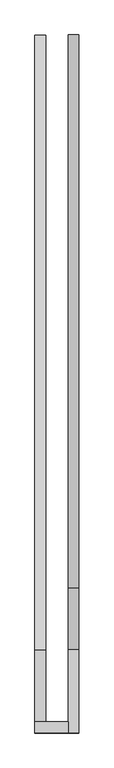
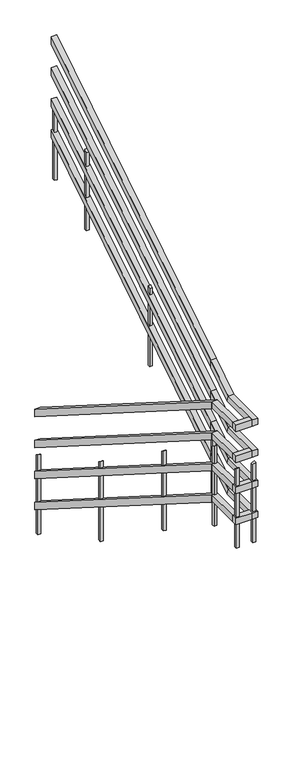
"""IFC4 building model written with IfcOpenShell, lengths in millimetres: railing geometry, RL780-금속재 난간."""

from ifc_helpers import new_model, si_unit, frame, origin, place, context, project, spatial, polyline, outline, extrude, faceted_brep, source, transform, mapped, element, save


def railing_8a41344b(model_context):
    return source(origin(), model_context, "Body", "SolidModel", [
        faceted_brep([(1249.8430136, 5200.0, 8877.2727273), (1299.8430136, 5200.0, 8877.2727273), (1299.8430136, 5200.0, 8806.2585515), (1249.8430136, 5200.0, 8806.2585515), (1249.8430136, 2400.0, 10650.0), (1249.8430136, 2400.0, 10578.9858243), (1299.8430136, 2400.0, 10578.9858243), (1299.8430136, 2400.0, 10650.0)], [[[0, 1, 2, 3]], [[4, 5, 6, 7]], [[1, 0, 4, 7]], [[2, 1, 7, 6]], [[3, 2, 6, 5]], [[0, 3, 5, 4]]]),
        faceted_brep([(1249.8430136, 5200.0, 8577.2727273), (1299.8430136, 5200.0, 8577.2727273), (1299.8430136, 5200.0, 8506.2585515), (1249.8430136, 5200.0, 8506.2585515), (1249.8430136, 2400.0, 10350.0), (1249.8430136, 2400.0, 10278.9858243), (1299.8430136, 2400.0, 10278.9858243), (1299.8430136, 2400.0, 10350.0)], [[[0, 1, 2, 3]], [[4, 5, 6, 7]], [[1, 0, 4, 7]], [[2, 1, 7, 6]], [[3, 2, 6, 5]], [[0, 3, 5, 4]]]),
        faceted_brep([(1249.8430136, 5200.0, 8277.2727273), (1299.8430136, 5200.0, 8277.2727273), (1299.8430136, 5200.0, 8206.2585515), (1249.8430136, 5200.0, 8206.2585515), (1249.8430136, 2400.0, 10050.0), (1249.8430136, 2400.0, 9978.9858243), (1299.8430136, 2400.0, 9978.9858243), (1299.8430136, 2400.0, 10050.0)], [[[0, 1, 2, 3]], [[4, 5, 6, 7]], [[1, 0, 4, 7]], [[2, 1, 7, 6]], [[3, 2, 6, 5]], [[0, 3, 5, 4]]]),
        faceted_brep([(1249.8430136, 5200.0, 7977.2727273), (1299.8430136, 5200.0, 7977.2727273), (1299.8430136, 5200.0, 7906.2585515), (1249.8430136, 5200.0, 7906.2585515), (1249.8430136, 2400.0, 9750.0), (1249.8430136, 2400.0, 9678.9858243), (1299.8430136, 2400.0, 9678.9858243), (1299.8430136, 2400.0, 9750.0)], [[[0, 1, 2, 3]], [[4, 5, 6, 7]], [[1, 0, 4, 7]], [[2, 1, 7, 6]], [[3, 2, 6, 5]], [[0, 3, 5, 4]]]),
        faceted_brep([(1249.8430136, 2021.0869752, 10650.0), (1249.8430136, 2071.0869752, 10650.0), (1249.8430136, 2071.0869752, 10590.0), (1249.8430136, 2021.0869752, 10590.0), (1400.6430136, 2021.0869752, 10650.0), (1400.6430136, 2021.0869752, 10590.0), (1400.6430136, 2071.0869752, 10590.0), (1400.6430136, 2071.0869752, 10650.0)], [[[0, 1, 2, 3]], [[4, 5, 6, 7]], [[1, 0, 4, 7]], [[2, 1, 7, 6]], [[3, 2, 6, 5]], [[0, 3, 5, 4]]]),
        faceted_brep([(1450.6430136, 2021.0869752, 10650.0), (1400.6430136, 2021.0869752, 10650.0), (1400.6430136, 2021.0869752, 10590.0), (1450.6430136, 2021.0869752, 10590.0), (1450.6430136, 2400.0, 10650.0), (1400.6430136, 2400.0, 10650.0), (1400.6430136, 2417.3967494, 10590.0), (1450.6430136, 2680.0, 10827.2727273), (1450.6430136, 2680.0, 10756.2585515), (1400.6430136, 2680.0, 10756.2585515), (1400.6430136, 2680.0, 10827.2727273), (1450.6430136, 2417.3967494, 10590.0)], [[[0, 1, 2, 3]], [[1, 0, 4, 5]], [[2, 1, 5, 6]], [[7, 8, 9, 10]], [[5, 4, 7, 10]], [[6, 5, 10, 9]], [[3, 2, 6, 11]], [[0, 3, 11, 4]], [[11, 6, 9, 8]], [[4, 11, 8, 7]]]),
        faceted_brep([(1450.6430136, 2680.0, 10827.2727273), (1400.6430136, 2680.0, 10827.2727273), (1400.6430136, 2680.0, 10756.2585515), (1450.6430136, 2680.0, 10756.2585515), (1450.6430136, 5200.0, 12422.7272727), (1450.6430136, 5200.0, 12351.713097), (1400.6430136, 5200.0, 12351.713097), (1400.6430136, 5200.0, 12422.7272727)], [[[0, 1, 2, 3]], [[4, 5, 6, 7]], [[1, 0, 4, 7]], [[2, 1, 7, 6]], [[3, 2, 6, 5]], [[0, 3, 5, 4]]]),
        faceted_brep([(1249.8430136, 2021.0869752, 10350.0), (1249.8430136, 2071.0869752, 10350.0), (1249.8430136, 2071.0869752, 10290.0), (1249.8430136, 2021.0869752, 10290.0), (1400.6430136, 2021.0869752, 10350.0), (1400.6430136, 2021.0869752, 10290.0), (1400.6430136, 2071.0869752, 10290.0), (1400.6430136, 2071.0869752, 10350.0)], [[[0, 1, 2, 3]], [[4, 5, 6, 7]], [[1, 0, 4, 7]], [[2, 1, 7, 6]], [[3, 2, 6, 5]], [[0, 3, 5, 4]]]),
        faceted_brep([(1450.6430136, 2021.0869752, 10350.0), (1400.6430136, 2021.0869752, 10350.0), (1400.6430136, 2021.0869752, 10290.0), (1450.6430136, 2021.0869752, 10290.0), (1450.6430136, 2400.0, 10350.0), (1400.6430136, 2400.0, 10350.0), (1400.6430136, 2417.3967494, 10290.0), (1450.6430136, 2680.0, 10527.2727273), (1450.6430136, 2680.0, 10456.2585515), (1400.6430136, 2680.0, 10456.2585515), (1400.6430136, 2680.0, 10527.2727273), (1450.6430136, 2417.3967494, 10290.0)], [[[0, 1, 2, 3]], [[1, 0, 4, 5]], [[2, 1, 5, 6]], [[7, 8, 9, 10]], [[5, 4, 7, 10]], [[6, 5, 10, 9]], [[3, 2, 6, 11]], [[0, 3, 11, 4]], [[11, 6, 9, 8]], [[4, 11, 8, 7]]]),
        faceted_brep([(1450.6430136, 2680.0, 10527.2727273), (1400.6430136, 2680.0, 10527.2727273), (1400.6430136, 2680.0, 10456.2585515), (1450.6430136, 2680.0, 10456.2585515), (1450.6430136, 5200.0, 12122.7272727), (1450.6430136, 5200.0, 12051.713097), (1400.6430136, 5200.0, 12051.713097), (1400.6430136, 5200.0, 12122.7272727)], [[[0, 1, 2, 3]], [[4, 5, 6, 7]], [[1, 0, 4, 7]], [[2, 1, 7, 6]], [[3, 2, 6, 5]], [[0, 3, 5, 4]]]),
        faceted_brep([(1249.8430136, 2021.0869752, 10050.0), (1249.8430136, 2071.0869752, 10050.0), (1249.8430136, 2071.0869752, 9990.0), (1249.8430136, 2021.0869752, 9990.0), (1400.6430136, 2021.0869752, 10050.0), (1400.6430136, 2021.0869752, 9990.0), (1400.6430136, 2071.0869752, 9990.0), (1400.6430136, 2071.0869752, 10050.0)], [[[0, 1, 2, 3]], [[4, 5, 6, 7]], [[1, 0, 4, 7]], [[2, 1, 7, 6]], [[3, 2, 6, 5]], [[0, 3, 5, 4]]]),
        faceted_brep([(1450.6430136, 2021.0869752, 10050.0), (1400.6430136, 2021.0869752, 10050.0), (1400.6430136, 2021.0869752, 9990.0), (1450.6430136, 2021.0869752, 9990.0), (1450.6430136, 2400.0, 10050.0), (1400.6430136, 2400.0, 10050.0), (1400.6430136, 2417.3967494, 9990.0), (1450.6430136, 2680.0, 10227.2727273), (1450.6430136, 2680.0, 10156.2585515), (1400.6430136, 2680.0, 10156.2585515), (1400.6430136, 2680.0, 10227.2727273), (1450.6430136, 2417.3967494, 9990.0)], [[[0, 1, 2, 3]], [[1, 0, 4, 5]], [[2, 1, 5, 6]], [[7, 8, 9, 10]], [[5, 4, 7, 10]], [[6, 5, 10, 9]], [[3, 2, 6, 11]], [[0, 3, 11, 4]], [[11, 6, 9, 8]], [[4, 11, 8, 7]]]),
        faceted_brep([(1450.6430136, 2680.0, 10227.2727273), (1400.6430136, 2680.0, 10227.2727273), (1400.6430136, 2680.0, 10156.2585515), (1450.6430136, 2680.0, 10156.2585515), (1450.6430136, 5200.0, 11822.7272727), (1450.6430136, 5200.0, 11751.713097), (1400.6430136, 5200.0, 11751.713097), (1400.6430136, 5200.0, 11822.7272727)], [[[0, 1, 2, 3]], [[4, 5, 6, 7]], [[1, 0, 4, 7]], [[2, 1, 7, 6]], [[3, 2, 6, 5]], [[0, 3, 5, 4]]]),
        faceted_brep([(1249.8430136, 2021.0869752, 9750.0), (1249.8430136, 2071.0869752, 9750.0), (1249.8430136, 2071.0869752, 9690.0), (1249.8430136, 2021.0869752, 9690.0), (1400.6430136, 2021.0869752, 9750.0), (1400.6430136, 2021.0869752, 9690.0), (1400.6430136, 2071.0869752, 9690.0), (1400.6430136, 2071.0869752, 9750.0)], [[[0, 1, 2, 3]], [[4, 5, 6, 7]], [[1, 0, 4, 7]], [[2, 1, 7, 6]], [[3, 2, 6, 5]], [[0, 3, 5, 4]]]),
        faceted_brep([(1450.6430136, 2021.0869752, 9750.0), (1400.6430136, 2021.0869752, 9750.0), (1400.6430136, 2021.0869752, 9690.0), (1450.6430136, 2021.0869752, 9690.0), (1450.6430136, 2400.0, 9750.0), (1400.6430136, 2400.0, 9750.0), (1400.6430136, 2417.3967494, 9690.0), (1450.6430136, 2680.0, 9927.2727273), (1450.6430136, 2680.0, 9856.2585515), (1400.6430136, 2680.0, 9856.2585515), (1400.6430136, 2680.0, 9927.2727273), (1450.6430136, 2417.3967494, 9690.0)], [[[0, 1, 2, 3]], [[1, 0, 4, 5]], [[2, 1, 5, 6]], [[7, 8, 9, 10]], [[5, 4, 7, 10]], [[6, 5, 10, 9]], [[3, 2, 6, 11]], [[0, 3, 11, 4]], [[11, 6, 9, 8]], [[4, 11, 8, 7]]]),
        faceted_brep([(1450.6430136, 2680.0, 9927.2727273), (1400.6430136, 2680.0, 9927.2727273), (1400.6430136, 2680.0, 9856.2585515), (1450.6430136, 2680.0, 9856.2585515), (1450.6430136, 5200.0, 11522.7272727), (1450.6430136, 5200.0, 11451.713097), (1400.6430136, 5200.0, 11451.713097), (1400.6430136, 5200.0, 11522.7272727)], [[[0, 1, 2, 3]], [[4, 5, 6, 7]], [[1, 0, 4, 7]], [[2, 1, 7, 6]], [[3, 2, 6, 5]], [[0, 3, 5, 4]]]),
        faceted_brep([(1249.8430136, 2400.0, 10650.0), (1299.8430136, 2400.0, 10650.0), (1299.8430136, 2400.0, 10590.0), (1249.8430136, 2400.0, 10590.0), (1249.8430136, 2071.0869752, 10650.0), (1249.8430136, 2071.0869752, 10590.0), (1299.8430136, 2071.0869752, 10590.0), (1299.8430136, 2071.0869752, 10650.0)], [[[0, 1, 2, 3]], [[4, 5, 6, 7]], [[1, 0, 4, 7]], [[2, 1, 7, 6]], [[3, 2, 6, 5]], [[0, 3, 5, 4]]]),
        faceted_brep([(1249.8430136, 2400.0, 10350.0), (1299.8430136, 2400.0, 10350.0), (1299.8430136, 2400.0, 10290.0), (1249.8430136, 2400.0, 10290.0), (1249.8430136, 2071.0869752, 10350.0), (1249.8430136, 2071.0869752, 10290.0), (1299.8430136, 2071.0869752, 10290.0), (1299.8430136, 2071.0869752, 10350.0)], [[[0, 1, 2, 3]], [[4, 5, 6, 7]], [[1, 0, 4, 7]], [[2, 1, 7, 6]], [[3, 2, 6, 5]], [[0, 3, 5, 4]]]),
        faceted_brep([(1249.8430136, 2400.0, 10050.0), (1299.8430136, 2400.0, 10050.0), (1299.8430136, 2400.0, 9990.0), (1249.8430136, 2400.0, 9990.0), (1249.8430136, 2071.0869752, 10050.0), (1249.8430136, 2071.0869752, 9990.0), (1299.8430136, 2071.0869752, 9990.0), (1299.8430136, 2071.0869752, 10050.0)], [[[0, 1, 2, 3]], [[4, 5, 6, 7]], [[1, 0, 4, 7]], [[2, 1, 7, 6]], [[3, 2, 6, 5]], [[0, 3, 5, 4]]]),
        faceted_brep([(1249.8430136, 2400.0, 9750.0), (1299.8430136, 2400.0, 9750.0), (1299.8430136, 2400.0, 9690.0), (1249.8430136, 2400.0, 9690.0), (1249.8430136, 2071.0869752, 9750.0), (1249.8430136, 2071.0869752, 9690.0), (1299.8430136, 2071.0869752, 9690.0), (1299.8430136, 2071.0869752, 9750.0)], [[[0, 1, 2, 3]], [[4, 5, 6, 7]], [[1, 0, 4, 7]], [[2, 1, 7, 6]], [[3, 2, 6, 5]], [[0, 3, 5, 4]]]),
        extrude(outline(polyline([(4692.5, 11638.1359982), (4692.5, 10868.1818182), (4667.5, 10868.1818182), (4667.5, 11622.2276382), (4692.5, 11638.1359982)])), frame((1413.1430136, 0.0, 0.0), z_axis=(1.0, 0.0, 0.0), x_axis=(0.0, 1.0, 0.0)), (0.0, 0.0, 1.0), 25.0),
        extrude(outline(polyline([(3692.5, 10929.0450891), (3692.5, 10159.0909091), (3667.5, 10159.0909091), (3667.5, 10913.1367291), (3692.5, 10929.0450891)])), frame((1413.1430136, 0.0, 0.0), z_axis=(1.0, 0.0, 0.0), x_axis=(0.0, 1.0, 0.0)), (0.0, 0.0, 1.0), 25.0),
        extrude(outline(polyline([(3212.5, 9672.2276382), (3212.5, 8918.1818182), (3187.5, 8918.1818182), (3187.5, 9688.1359982), (3212.5, 9672.2276382)])), frame((1262.3430136, 0.0, 0.0), z_axis=(1.0, 0.0, 0.0), x_axis=(0.0, 1.0, 0.0)), (0.0, 0.0, 1.0), 25.0),
        extrude(outline(polyline([(4212.5, 8963.1367291), (4212.5, 8209.0909091), (4187.5, 8209.0909091), (4187.5, 8979.0450891), (4212.5, 8963.1367291)])), frame((1262.3430136, 0.0, 0.0), z_axis=(1.0, 0.0, 0.0), x_axis=(0.0, 1.0, 0.0)), (0.0, 0.0, 1.0), 25.0),
        extrude(outline(polyline([(2692.5, 10219.95418), (2692.5, 9450.0), (2667.5, 9450.0), (2667.5, 10204.04582), (2692.5, 10219.95418)])), frame((1413.1430136, 0.0, 0.0), z_axis=(1.0, 0.0, 0.0), x_axis=(0.0, 1.0, 0.0)), (0.0, 0.0, 1.0), 25.0),
        extrude(outline(polyline([(10204.04582, 1413.1430136), (9450.0, 1413.1430136), (9450.0, 1438.1430136), (10219.95418, 1438.1430136), (10204.04582, 1413.1430136)])), frame((0.0, 2033.5869752, 0.0), z_axis=(0.0, 1.0, 0.0), x_axis=(0.0, 0.0, 1.0)), (0.0, 0.0, 1.0), 25.0),
        extrude(outline(polyline([(2058.5869752, 10204.04582), (2058.5869752, 9450.0), (2033.5869752, 9450.0), (2033.5869752, 10219.95418), (2058.5869752, 10204.04582)])), frame((1262.3430136, 0.0, 0.0), z_axis=(1.0, 0.0, 0.0), x_axis=(0.0, 1.0, 0.0)), (0.0, 0.0, 1.0), 25.0),
        extrude(outline(polyline([(2412.5, 10204.04582), (2412.5, 9450.0), (2387.5, 9450.0), (2387.5, 10219.95418), (2412.5, 10204.04582)])), frame((1262.3430136, 0.0, 0.0), z_axis=(1.0, 0.0, 0.0), x_axis=(0.0, 1.0, 0.0)), (0.0, 0.0, 1.0), 25.0),
        extrude(outline(polyline([(5200.0, 11815.4087255), (5200.0, 11045.4545455), (5175.0, 11045.4545455), (5175.0, 11799.5003654), (5200.0, 11815.4087255)])), frame((1413.1430136, 0.0, 0.0), z_axis=(1.0, 0.0, 0.0), x_axis=(0.0, 1.0, 0.0)), (0.0, 0.0, 1.0), 25.0),
        extrude(outline(polyline([(5200.0, 8431.3185473), (5200.0, 7677.2727273), (5175.0, 7677.2727273), (5175.0, 8447.2269073), (5200.0, 8431.3185473)])), frame((1262.3430136, 0.0, 0.0), z_axis=(1.0, 0.0, 0.0), x_axis=(0.0, 1.0, 0.0)), (0.0, 0.0, 1.0), 25.0),
    ])


if __name__ == "__main__":
    model = new_model("IFC4")
    model_context = context("Model", 3, world=origin())
    ifc_project = project(units=[si_unit("LENGTHUNIT", "METRE", prefix="MILLI")], contexts=[model_context])
    site = spatial("IfcSite", under=ifc_project)
    building = spatial("IfcBuilding", under=site)
    placement = place(None, origin())
    railing_shape = railing_8a41344b(model_context)
    element("IfcRailing", 1, ObjectType="RL780-금속재 난간", at=placement, inside=building, context=model_context, shape_type="MappedRepresentation", body=[
        mapped(railing_shape, transform((0.0, 0.0, 0.0), x_axis=(1.0, 0.0, 0.0), y_axis=(0.0, 1.0, 0.0), z_axis=(0.0, 0.0, 1.0))),
    ])
    save(model, "model.ifc")
